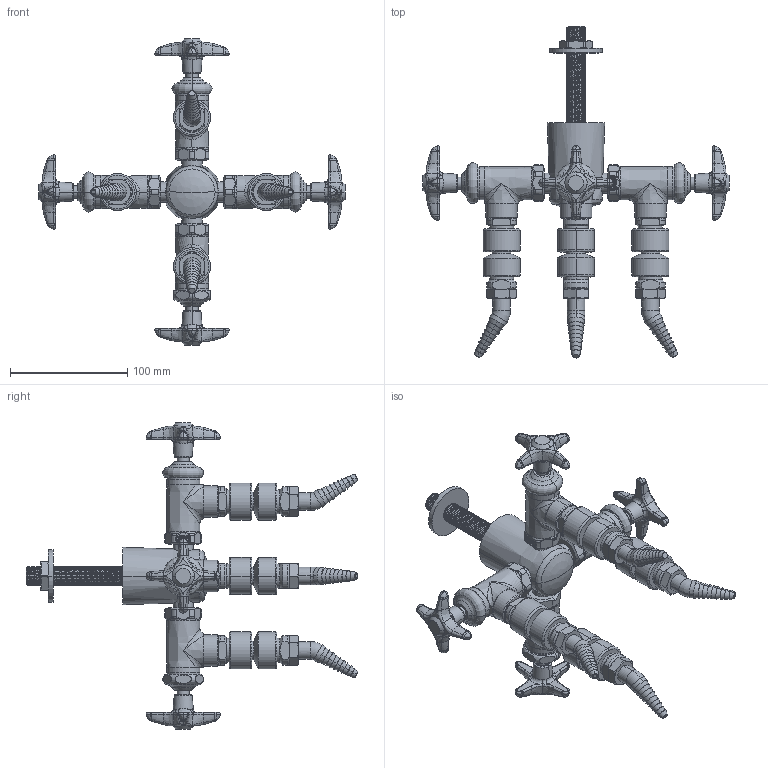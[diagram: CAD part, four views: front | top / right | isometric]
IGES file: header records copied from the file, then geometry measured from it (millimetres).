
Start section:  PTC IGES file: LWV2-A54-40.igs
Global section: file name: LWV2-A54-40.igs; native system: Creo Parametric by PTC Inc.; preprocessor: 2014500; author: usch_engrender; organization: Unknown; date: 20151116.180317; units: inch
Bounding box: 261.31 x 283.24 x 261.31 mm (x, y, z)
Volume: 568912.5 mm3; surface area: 138896.7 mm2
Topology: 1 solids, 11 shells, 2356 faces, 5451 edges, 3227 vertices
Faces by surface type: bspline 1283, revolution 1073
